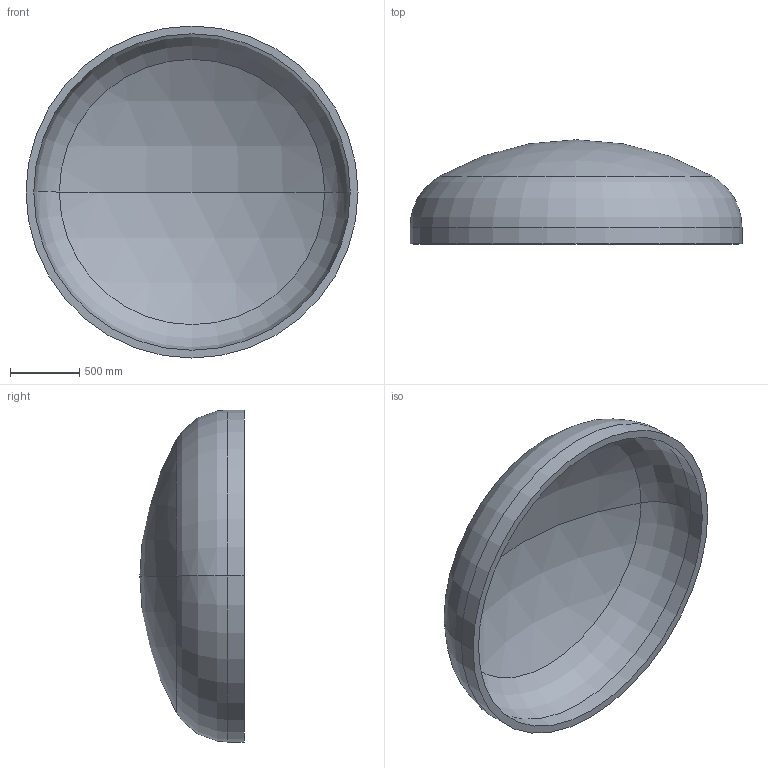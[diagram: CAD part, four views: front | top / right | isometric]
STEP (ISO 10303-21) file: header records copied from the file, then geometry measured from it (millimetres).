
FILE_DESCRIPTION (( 'STEP AP203' ), '1' );
FILE_NAME ('DIN 28013 Korbbogenform_-_Boden DIN 28013 - 2400 x 120 - I - s=56.step', '2016-07-01T15:28:23', ( '' ), ( '' ), 'SwSTEP 2.0', 'SolidWorks 2013', '' );
FILE_SCHEMA (( 'CONFIG_CONTROL_DESIGN' ));
Length unit declared in the file: millimetre
Products named in the file (1): DIN 28013 Korbbogenform_-_Boden DIN 28013 - 2400 x 120 - I - s=56
Bounding box: 2400 x 753.08 x 2400 mm (x, y, z)
Volume: 389839428.2 mm3; surface area: 14341778.3 mm2
Topology: 1 solids, 1 shells, 13 faces, 24 edges, 14 vertices
Faces by surface type: torus 4, cylinder 4, sphere 4, plane 1
Entity records: 407 total; most frequent: DIRECTION 72, CARTESIAN_POINT 52, ORIENTED_EDGE 48, AXIS2_PLACEMENT_3D 34, EDGE_CURVE 24, CIRCLE 20, VERTEX_POINT 14, EDGE_LOOP 14
